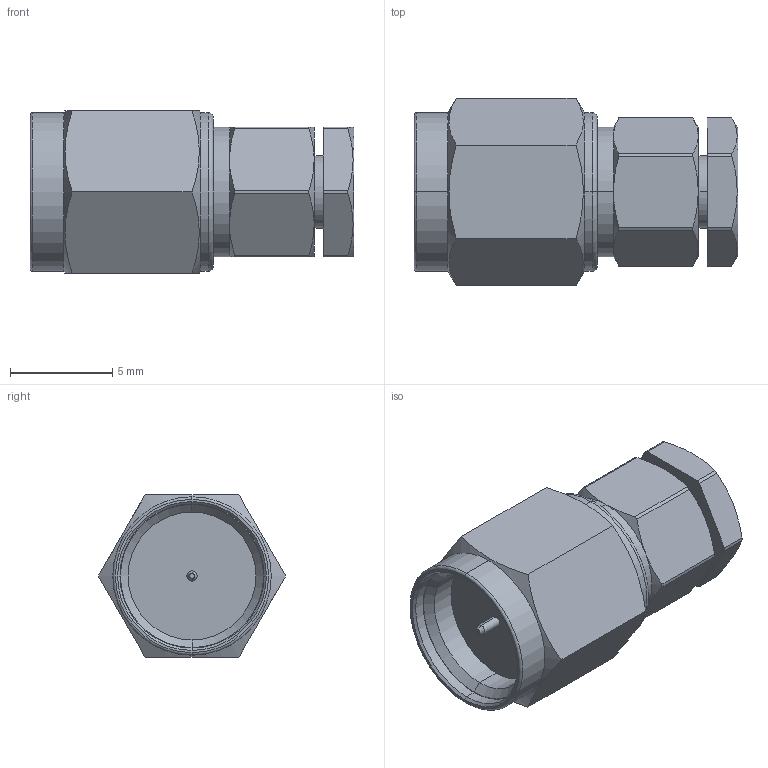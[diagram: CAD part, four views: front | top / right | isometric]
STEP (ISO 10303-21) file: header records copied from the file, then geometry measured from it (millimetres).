
FILE_DESCRIPTION (( 'STEP AP214' ), '1' );
FILE_NAME ('SF3311-60002.STEP', '2018-11-12T21:32:01', ( '' ), ( '' ), 'SwSTEP 2.0', 'SolidWorks 2016', '' );
FILE_SCHEMA (( 'AUTOMOTIVE_DESIGN' ));
Length unit declared in the file: inch
Products named in the file (1): SF3311-60002
Bounding box: 15.84 x 9.17 x 7.94 mm (x, y, z)
Volume: 576.1 mm3; surface area: 723.6 mm2
Topology: 1 solids, 2 shells, 128 faces, 288 edges, 174 vertices
Faces by surface type: cylinder 48, cone 40, plane 32, torus 8
Entity records: 5396 total; most frequent: CARTESIAN_POINT 911, DIRECTION 622, ORIENTED_EDGE 576, EDGE_CURVE 288, AXIS2_PLACEMENT_3D 261, VERTEX_POINT 174, EDGE_LOOP 144, CIRCLE 132
